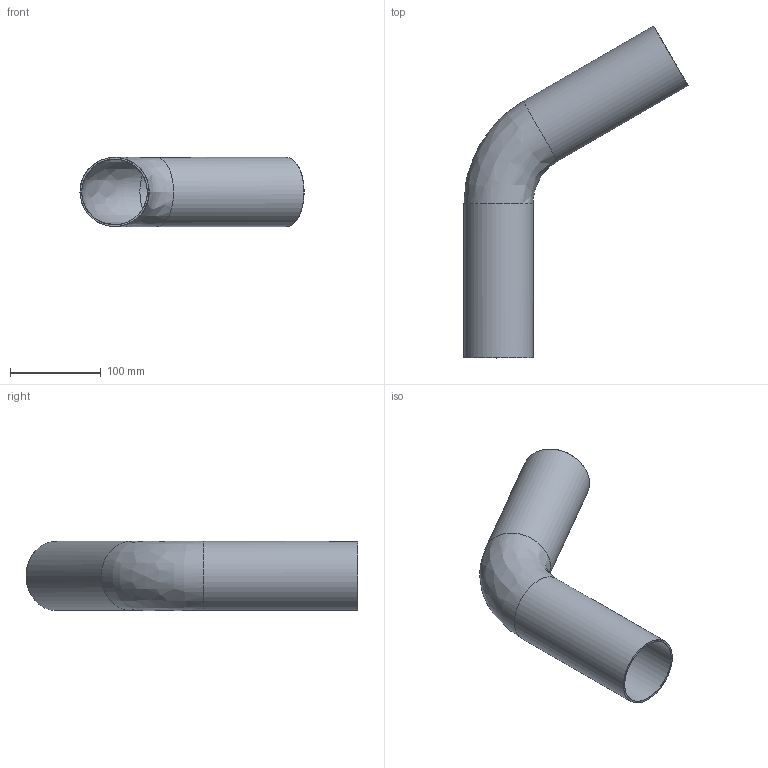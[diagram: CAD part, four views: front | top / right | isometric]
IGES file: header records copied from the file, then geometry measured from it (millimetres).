
Global section: file name: C72AK; native system: Autodesk Inventor 2023; preprocessor: unknown; author: lvalentini; date: 20230921.121018; units: millimetre
Bounding box: 246.64 x 365.35 x 76.1 mm (x, y, z)
Volume: 201955.4 mm3; surface area: 202294.6 mm2
Topology: 1 solids, 1 shells, 12 faces, 26 edges, 16 vertices
Faces by surface type: bspline 12
